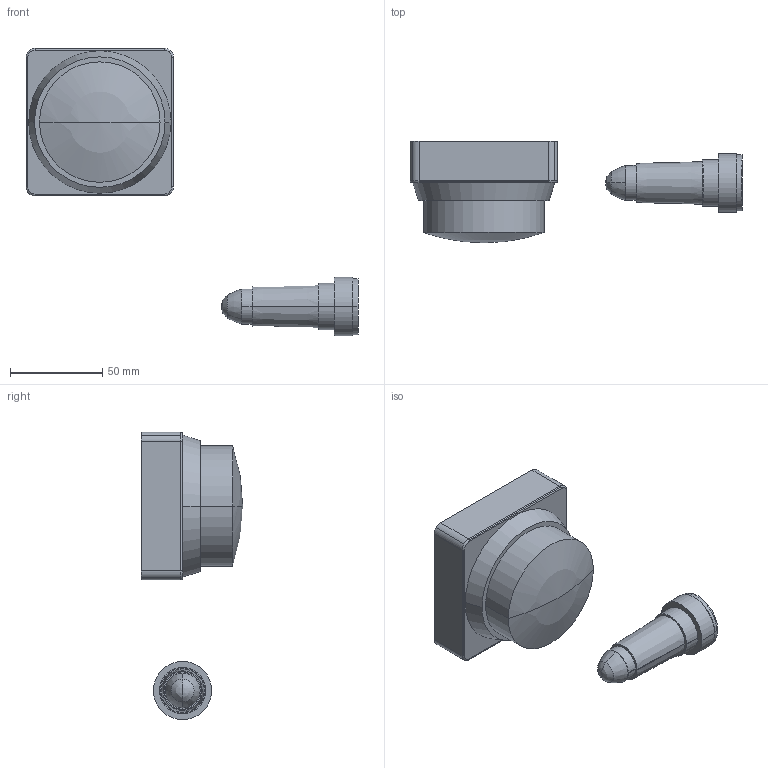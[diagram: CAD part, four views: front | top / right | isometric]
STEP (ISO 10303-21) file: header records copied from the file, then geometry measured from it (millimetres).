
FILE_DESCRIPTION((''),'2;1');
FILE_NAME('RTN81.dwg.stp','2006-10-04T11:31:36',(''),(''),'Mechanical Desktop 2006','Mechanical Desktop 2006',', , ');
FILE_SCHEMA(('AUTOMOTIVE_DESIGN { 1 2 10303 214 0 1 1 1 }'));
Length unit declared in the file: millimetre
Products named in the file (1): Product
Bounding box: 180 x 55 x 155.78 mm (x, y, z)
Volume: 259240.9 mm3; surface area: 59839.2 mm2
Topology: 5 solids, 6 shells, 69 faces, 147 edges, 93 vertices
Faces by surface type: cylinder 32, plane 21, cone 6, torus 4, bspline 4, sphere 2
Entity records: 1991 total; most frequent: CARTESIAN_POINT 408, DIRECTION 366, ORIENTED_EDGE 284, AXIS2_PLACEMENT_3D 158, EDGE_CURVE 142, VERTEX_POINT 92, CIRCLE 92, EDGE_LOOP 76
